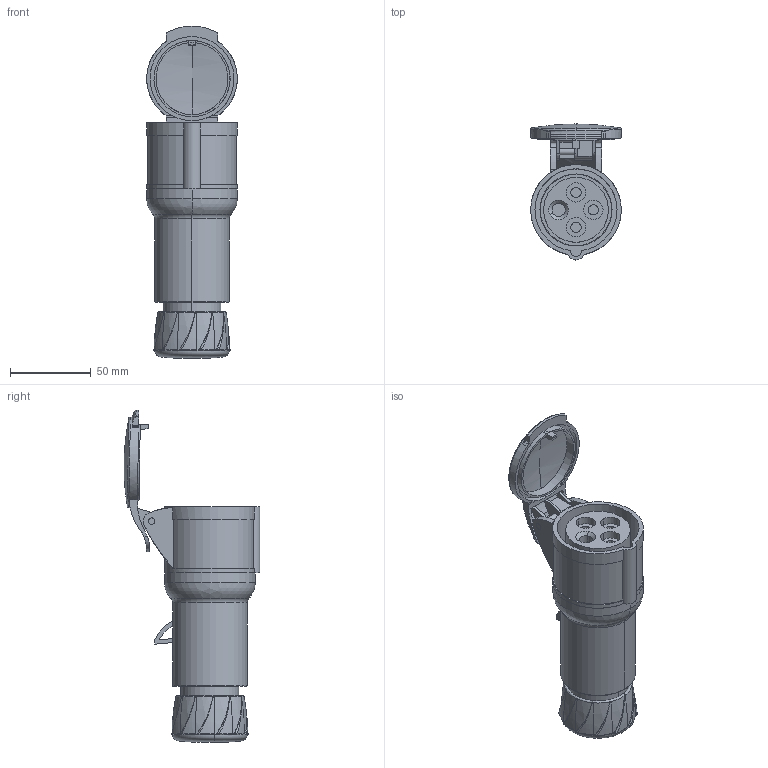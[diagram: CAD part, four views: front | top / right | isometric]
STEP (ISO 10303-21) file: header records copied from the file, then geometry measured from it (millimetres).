
FILE_DESCRIPTION((''),'2;1');
FILE_NAME('PKY16M424_3D-SIMPLIFIED_ASM','2023-02-10T08:51:49',('gines.fernandez'),(''),'CREO PARAMETRIC BY PTC INC, 2018260','CREO PARAMETRIC BY PTC INC, 2018260','');
FILE_SCHEMA(('CONFIG_CONTROL_DESIGN'));
Length unit declared in the file: inch
Products named in the file (8): PRT1; PRT3; PRT4; PRT5; PRT6; PRT7; PRT8; PKY16M424_3D-SIMPLIFIED_ASM
Assembly tree (7 placements, depth 2):
  PKY16M424_3D-SIMPLIFIED_ASM
    PRT1
    PRT3
    PRT4
    PRT5
    PRT6
    PRT7
    PRT8
Bounding box: 56 x 83.98 x 205.07 mm (x, y, z)
Volume: 181155 mm3; surface area: 93070.1 mm2
Topology: 7 solids, 7 shells, 447 faces, 1225 edges, 805 vertices
Faces by surface type: cylinder 172, plane 140, bspline 74, torus 42, cone 14, sphere 4, extrusion 1
Entity records: 19647 total; most frequent: CARTESIAN_POINT 8566, ORIENTED_EDGE 2442, DIRECTION 2162, EDGE_CURVE 1221, AXIS2_PLACEMENT_3D 889, VERTEX_POINT 805, CIRCLE 502, EDGE_LOOP 482
